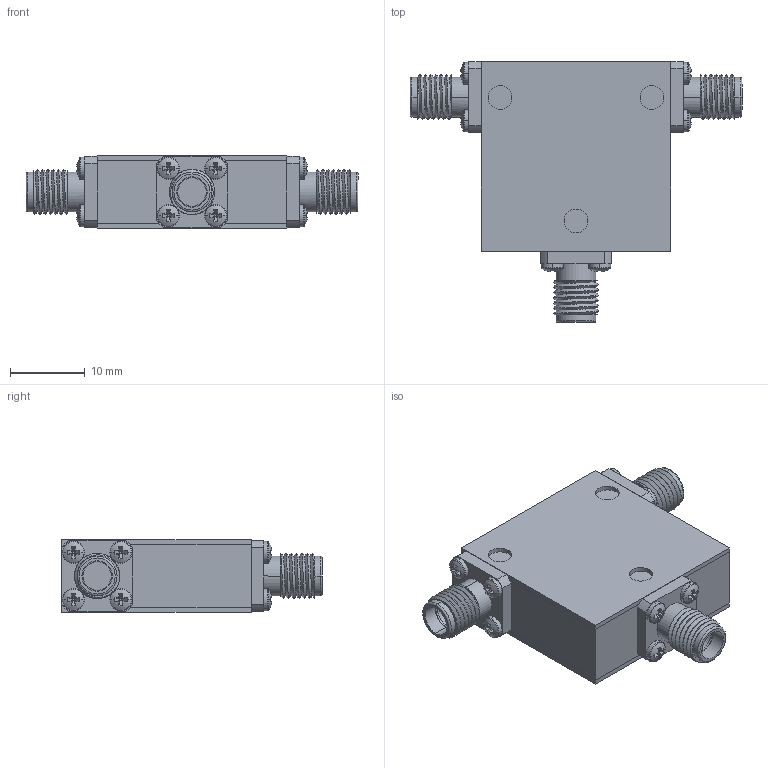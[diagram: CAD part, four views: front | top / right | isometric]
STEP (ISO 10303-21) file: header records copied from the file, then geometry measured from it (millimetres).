
FILE_DESCRIPTION (( 'STEP AP214' ), '1' );
FILE_NAME ('Package 9 Circ FFF.step', '2021-12-01T21:02:30', ( '' ), ( '' ), 'SwSTEP 2.0', 'SolidWorks 2016', '' );
FILE_SCHEMA (( 'AUTOMOTIVE_DESIGN' ));
Length unit declared in the file: inch
Products named in the file (5): Package 9 Circ FFF; Package 9; Delta SMA-Female 0.375 flange Threaded; pan cross head_ai_CR-PHMS 0.06-80x0.125x0.125-N; Package Size 9
Assembly tree (17 placements, depth 2):
  Package 9 Circ FFF
    Package Size 9
    Package 9
    Delta SMA-Female 0.375 flange Threaded  x3
    pan cross head_ai_CR-PHMS 0.06-80x0.125x0.125-N  x12
Bounding box: 44.45 x 34.92 x 9.65 mm (x, y, z)
Volume: 6926.9 mm3; surface area: 7194.6 mm2
Topology: 17 solids, 17 shells, 421 faces, 957 edges, 591 vertices
Faces by surface type: plane 232, cylinder 126, torus 30, sphere 24, bspline 9
Entity records: 3729 total; most frequent: CARTESIAN_POINT 1205, DIRECTION 527, ORIENTED_EDGE 434, EDGE_CURVE 217, AXIS2_PLACEMENT_3D 211, VERTEX_POINT 139, EDGE_LOOP 116, LINE 105
